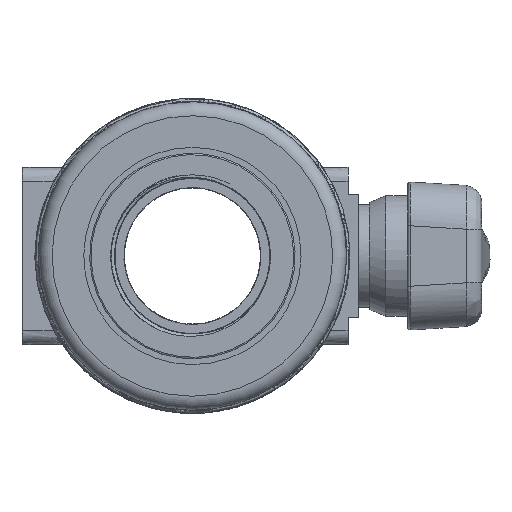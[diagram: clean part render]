
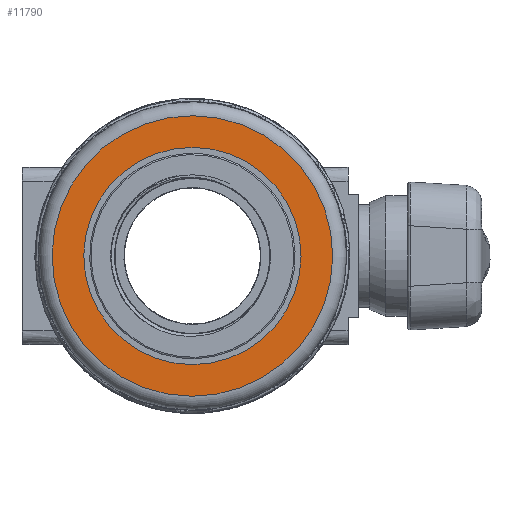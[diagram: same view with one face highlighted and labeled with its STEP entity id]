
A CAD part, front view. The second image highlights one B-rep face of the part: STEP entity #11790.
In plain terms, the highlighted planar face has unit normal (0, -1, 0).
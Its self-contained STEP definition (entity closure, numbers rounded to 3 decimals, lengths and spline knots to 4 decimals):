
#395=FACE_BOUND('',#2848,.T.);
#1438=CIRCLE('',#12772,5.12);
#1439=CIRCLE('',#12773,3.965);
#2098=FACE_OUTER_BOUND('',#2847,.T.);
#2847=EDGE_LOOP('',(#9216));
#2848=EDGE_LOOP('',(#9217));
#5053=VERTEX_POINT('',#48442);
#5054=VERTEX_POINT('',#48444);
#6525=EDGE_CURVE('',#5053,#5053,#1438,.T.);
#6526=EDGE_CURVE('',#5054,#5054,#1439,.T.);
#9216=ORIENTED_EDGE('',*,*,#6525,.F.);
#9217=ORIENTED_EDGE('',*,*,#6526,.T.);
#10558=PLANE('',#12771);
#11790=ADVANCED_FACE('',(#2098,#395),#10558,.T.);
#12771=AXIS2_PLACEMENT_3D('',#48441,#15033,#15034);
#12772=AXIS2_PLACEMENT_3D('',#48443,#15035,#15036);
#12773=AXIS2_PLACEMENT_3D('',#48445,#15037,#15038);
#15033=DIRECTION('center_axis',(0.,-1.,0.));
#15034=DIRECTION('ref_axis',(0.762,0.,-0.648));
#15035=DIRECTION('center_axis',(0.,1.,0.));
#15036=DIRECTION('ref_axis',(0.648,0.,0.762));
#15037=DIRECTION('center_axis',(0.,1.,0.));
#15038=DIRECTION('ref_axis',(0.648,0.,0.762));
#48441=CARTESIAN_POINT('Origin',(-3.3159,-5.97,-3.9012));
#48442=CARTESIAN_POINT('',(-3.3159,-5.97,-3.9012));
#48443=CARTESIAN_POINT('Origin',(0.,-5.97,
0.));
#48444=CARTESIAN_POINT('',(-2.5679,-5.97,-3.0211));
#48445=CARTESIAN_POINT('Origin',(0.,-5.97,
0.));
